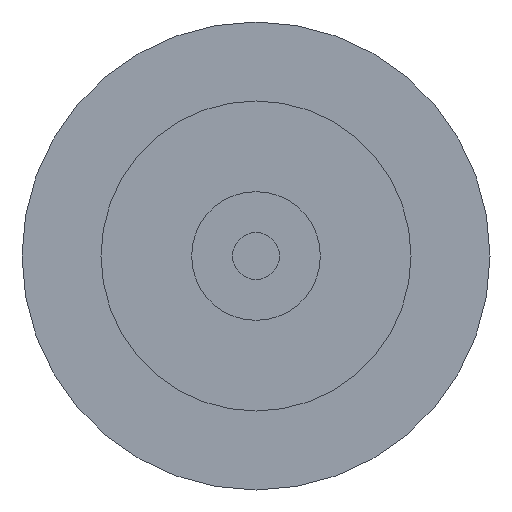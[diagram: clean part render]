
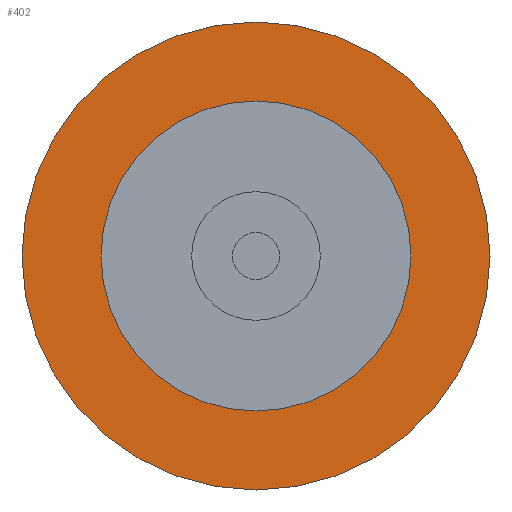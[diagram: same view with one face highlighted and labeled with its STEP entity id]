
A CAD part, left-side view. The second image highlights one B-rep face of the part: STEP entity #402.
In plain terms, the highlighted planar face has unit normal (-1, 0, 0).
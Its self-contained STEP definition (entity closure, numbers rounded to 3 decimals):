
#85=CARTESIAN_POINT('',(-13.5,0.,0.));
#86=DIRECTION('',(-1.,0.,0.));
#87=DIRECTION('',(0.,0.,-1.));
#88=AXIS2_PLACEMENT_3D('',#85,#86,#87);
#90=CARTESIAN_POINT('',(-13.5,0.,0.));
#91=DIRECTION('',(1.,0.,0.));
#92=DIRECTION('',(0.,0.,-1.));
#93=AXIS2_PLACEMENT_3D('',#90,#91,#92);
#95=CARTESIAN_POINT('',(-13.5,0.,0.));
#96=DIRECTION('',(1.,0.,0.));
#97=DIRECTION('',(0.,0.,-1.));
#98=AXIS2_PLACEMENT_3D('',#95,#96,#97);
#108=CARTESIAN_POINT('',(-13.5,0.,0.));
#109=DIRECTION('',(-1.,0.,0.));
#110=DIRECTION('',(0.,0.,-1.));
#111=AXIS2_PLACEMENT_3D('',#108,#109,#110);
#206=CARTESIAN_POINT('',(-13.5,0.,-40.));
#208=VERTEX_POINT('',#206);
#209=CARTESIAN_POINT('',(-13.5,0.,-26.5));
#211=VERTEX_POINT('',#209);
#226=CARTESIAN_POINT('',(-13.5,0.,40.));
#228=VERTEX_POINT('',#226);
#229=CARTESIAN_POINT('',(-13.5,0.,26.5));
#231=VERTEX_POINT('',#229);
#387=CARTESIAN_POINT('',(-13.5,0.,0.));
#388=DIRECTION('',(1.,0.,0.));
#389=DIRECTION('',(0.,0.,1.));
#390=AXIS2_PLACEMENT_3D('',#387,#388,#389);
#391=PLANE('',#390);
#392=ORIENTED_EDGE('',*,*,#380,.F.);
#393=ORIENTED_EDGE('',*,*,#369,.T.);
#394=EDGE_LOOP('',(#392,#393));
#395=FACE_OUTER_BOUND('',#394,.F.);
#397=ORIENTED_EDGE('',*,*,#396,.F.);
#399=ORIENTED_EDGE('',*,*,#398,.T.);
#400=EDGE_LOOP('',(#397,#399));
#401=FACE_BOUND('',#400,.F.);
#402=ADVANCED_FACE('',(#395,#401),#391,.F.);
#89=CIRCLE('',#88,40.);
#94=CIRCLE('',#93,40.);
#99=CIRCLE('',#98,26.5);
#112=CIRCLE('',#111,26.5);
#369=EDGE_CURVE('',#208,#228,#94,.T.);
#380=EDGE_CURVE('',#208,#228,#89,.T.);
#396=EDGE_CURVE('',#211,#231,#99,.T.);
#398=EDGE_CURVE('',#211,#231,#112,.T.);
